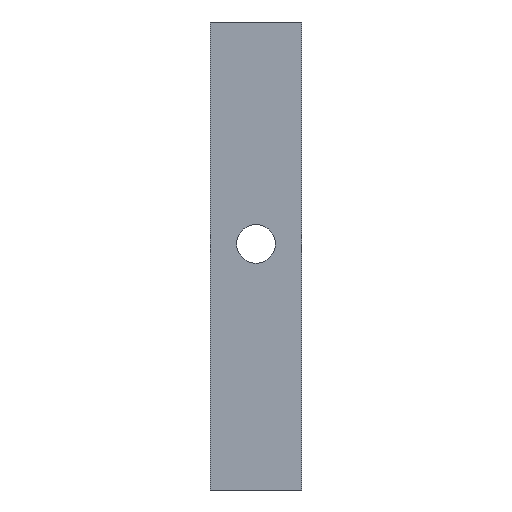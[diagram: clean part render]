
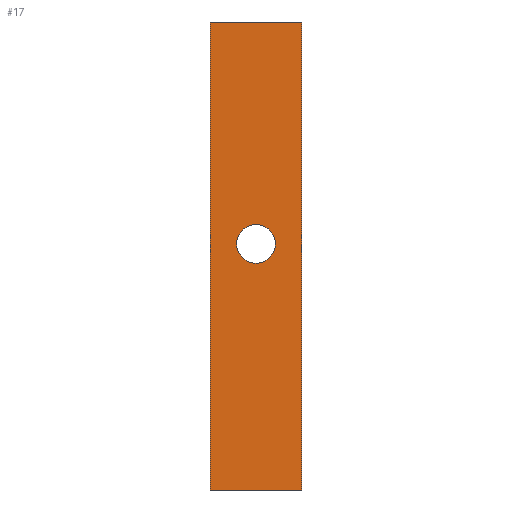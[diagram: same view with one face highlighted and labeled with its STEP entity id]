
A CAD part, left-side view. The second image highlights one B-rep face of the part: STEP entity #17.
In plain terms, the highlighted planar face has unit normal (-1, 0, 0).
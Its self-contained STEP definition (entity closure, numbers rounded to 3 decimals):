
#17 = ADVANCED_FACE('',(#18,#137),#32,.F.);
#18 = FACE_BOUND('',#19,.F.);
#19 = EDGE_LOOP('',(#20,#55,#83,#111));
#20 = ORIENTED_EDGE('',*,*,#21,.F.);
#21 = EDGE_CURVE('',#22,#24,#26,.T.);
#22 = VERTEX_POINT('',#23);
#23 = CARTESIAN_POINT('',(0.,-7.52,0.));
#24 = VERTEX_POINT('',#25);
#25 = CARTESIAN_POINT('',(0.,-7.52,77.1));
#26 = SURFACE_CURVE('',#27,(#31,#43),.PCURVE_S1.);
#27 = LINE('',#28,#29);
#28 = CARTESIAN_POINT('',(0.,-7.52,0.));
#29 = VECTOR('',#30,1.);
#30 = DIRECTION('',(0.,0.,1.));
#31 = PCURVE('',#32,#37);
#32 = PLANE('',#33);
#33 = AXIS2_PLACEMENT_3D('',#34,#35,#36);
#34 = CARTESIAN_POINT('',(0.,-7.52,0.));
#35 = DIRECTION('',(1.,0.,0.));
#36 = DIRECTION('',(0.,0.,1.));
#37 = DEFINITIONAL_REPRESENTATION('',(#38),#42);
#38 = LINE('',#39,#40);
#39 = CARTESIAN_POINT('',(0.,0.));
#40 = VECTOR('',#41,1.);
#41 = DIRECTION('',(1.,0.));
#42 = ( GEOMETRIC_REPRESENTATION_CONTEXT(2) 
PARAMETRIC_REPRESENTATION_CONTEXT() REPRESENTATION_CONTEXT('2D SPACE',''
  ) );
#43 = PCURVE('',#44,#49);
#44 = PLANE('',#45);
#45 = AXIS2_PLACEMENT_3D('',#46,#47,#48);
#46 = CARTESIAN_POINT('',(0.,-7.52,0.));
#47 = DIRECTION('',(0.,1.,0.));
#48 = DIRECTION('',(0.,0.,1.));
#49 = DEFINITIONAL_REPRESENTATION('',(#50),#54);
#50 = LINE('',#51,#52);
#51 = CARTESIAN_POINT('',(0.,0.));
#52 = VECTOR('',#53,1.);
#53 = DIRECTION('',(1.,0.));
#54 = ( GEOMETRIC_REPRESENTATION_CONTEXT(2) 
PARAMETRIC_REPRESENTATION_CONTEXT() REPRESENTATION_CONTEXT('2D SPACE',''
  ) );
#55 = ORIENTED_EDGE('',*,*,#56,.T.);
#56 = EDGE_CURVE('',#22,#57,#59,.T.);
#57 = VERTEX_POINT('',#58);
#58 = CARTESIAN_POINT('',(0.,7.52,0.));
#59 = SURFACE_CURVE('',#60,(#64,#71),.PCURVE_S1.);
#60 = LINE('',#61,#62);
#61 = CARTESIAN_POINT('',(0.,-7.52,0.));
#62 = VECTOR('',#63,1.);
#63 = DIRECTION('',(0.,1.,0.));
#64 = PCURVE('',#32,#65);
#65 = DEFINITIONAL_REPRESENTATION('',(#66),#70);
#66 = LINE('',#67,#68);
#67 = CARTESIAN_POINT('',(0.,0.));
#68 = VECTOR('',#69,1.);
#69 = DIRECTION('',(0.,-1.));
#70 = ( GEOMETRIC_REPRESENTATION_CONTEXT(2) 
PARAMETRIC_REPRESENTATION_CONTEXT() REPRESENTATION_CONTEXT('2D SPACE',''
  ) );
#71 = PCURVE('',#72,#77);
#72 = PLANE('',#73);
#73 = AXIS2_PLACEMENT_3D('',#74,#75,#76);
#74 = CARTESIAN_POINT('',(0.,-7.52,0.));
#75 = DIRECTION('',(0.,0.,1.));
#76 = DIRECTION('',(1.,0.,0.));
#77 = DEFINITIONAL_REPRESENTATION('',(#78),#82);
#78 = LINE('',#79,#80);
#79 = CARTESIAN_POINT('',(0.,0.));
#80 = VECTOR('',#81,1.);
#81 = DIRECTION('',(0.,1.));
#82 = ( GEOMETRIC_REPRESENTATION_CONTEXT(2) 
PARAMETRIC_REPRESENTATION_CONTEXT() REPRESENTATION_CONTEXT('2D SPACE',''
  ) );
#83 = ORIENTED_EDGE('',*,*,#84,.F.);
#84 = EDGE_CURVE('',#85,#57,#87,.T.);
#85 = VERTEX_POINT('',#86);
#86 = CARTESIAN_POINT('',(0.,7.52,77.1));
#87 = SURFACE_CURVE('',#88,(#92,#99),.PCURVE_S1.);
#88 = LINE('',#89,#90);
#89 = CARTESIAN_POINT('',(0.,7.52,77.1));
#90 = VECTOR('',#91,1.);
#91 = DIRECTION('',(0.,0.,-1.));
#92 = PCURVE('',#32,#93);
#93 = DEFINITIONAL_REPRESENTATION('',(#94),#98);
#94 = LINE('',#95,#96);
#95 = CARTESIAN_POINT('',(77.1,-15.04));
#96 = VECTOR('',#97,1.);
#97 = DIRECTION('',(-1.,0.));
#98 = ( GEOMETRIC_REPRESENTATION_CONTEXT(2) 
PARAMETRIC_REPRESENTATION_CONTEXT() REPRESENTATION_CONTEXT('2D SPACE',''
  ) );
#99 = PCURVE('',#100,#105);
#100 = PLANE('',#101);
#101 = AXIS2_PLACEMENT_3D('',#102,#103,#104);
#102 = CARTESIAN_POINT('',(0.,7.52,0.));
#103 = DIRECTION('',(0.,1.,0.));
#104 = DIRECTION('',(0.,0.,1.));
#105 = DEFINITIONAL_REPRESENTATION('',(#106),#110);
#106 = LINE('',#107,#108);
#107 = CARTESIAN_POINT('',(77.1,0.));
#108 = VECTOR('',#109,1.);
#109 = DIRECTION('',(-1.,0.));
#110 = ( GEOMETRIC_REPRESENTATION_CONTEXT(2) 
PARAMETRIC_REPRESENTATION_CONTEXT() REPRESENTATION_CONTEXT('2D SPACE',''
  ) );
#111 = ORIENTED_EDGE('',*,*,#112,.F.);
#112 = EDGE_CURVE('',#24,#85,#113,.T.);
#113 = SURFACE_CURVE('',#114,(#118,#125),.PCURVE_S1.);
#114 = LINE('',#115,#116);
#115 = CARTESIAN_POINT('',(0.,-7.52,77.1));
#116 = VECTOR('',#117,1.);
#117 = DIRECTION('',(0.,1.,0.));
#118 = PCURVE('',#32,#119);
#119 = DEFINITIONAL_REPRESENTATION('',(#120),#124);
#120 = LINE('',#121,#122);
#121 = CARTESIAN_POINT('',(77.1,0.));
#122 = VECTOR('',#123,1.);
#123 = DIRECTION('',(0.,-1.));
#124 = ( GEOMETRIC_REPRESENTATION_CONTEXT(2) 
PARAMETRIC_REPRESENTATION_CONTEXT() REPRESENTATION_CONTEXT('2D SPACE',''
  ) );
#125 = PCURVE('',#126,#131);
#126 = PLANE('',#127);
#127 = AXIS2_PLACEMENT_3D('',#128,#129,#130);
#128 = CARTESIAN_POINT('',(0.,-7.52,77.1));
#129 = DIRECTION('',(0.,0.,1.));
#130 = DIRECTION('',(1.,0.,0.));
#131 = DEFINITIONAL_REPRESENTATION('',(#132),#136);
#132 = LINE('',#133,#134);
#133 = CARTESIAN_POINT('',(0.,0.));
#134 = VECTOR('',#135,1.);
#135 = DIRECTION('',(0.,1.));
#136 = ( GEOMETRIC_REPRESENTATION_CONTEXT(2) 
PARAMETRIC_REPRESENTATION_CONTEXT() REPRESENTATION_CONTEXT('2D SPACE',''
  ) );
#137 = FACE_BOUND('',#138,.F.);
#138 = EDGE_LOOP('',(#139));
#139 = ORIENTED_EDGE('',*,*,#140,.F.);
#140 = EDGE_CURVE('',#141,#141,#143,.T.);
#141 = VERTEX_POINT('',#142);
#142 = CARTESIAN_POINT('',(-0.,3.2,40.55));
#143 = SURFACE_CURVE('',#144,(#149,#156),.PCURVE_S1.);
#144 = CIRCLE('',#145,3.2);
#145 = AXIS2_PLACEMENT_3D('',#146,#147,#148);
#146 = CARTESIAN_POINT('',(0.,0.,40.55));
#147 = DIRECTION('',(1.,0.,0.));
#148 = DIRECTION('',(0.,1.,0.));
#149 = PCURVE('',#32,#150);
#150 = DEFINITIONAL_REPRESENTATION('',(#151),#155);
#151 = CIRCLE('',#152,3.2);
#152 = AXIS2_PLACEMENT_2D('',#153,#154);
#153 = CARTESIAN_POINT('',(40.55,-7.52));
#154 = DIRECTION('',(0.,-1.));
#155 = ( GEOMETRIC_REPRESENTATION_CONTEXT(2) 
PARAMETRIC_REPRESENTATION_CONTEXT() REPRESENTATION_CONTEXT('2D SPACE',''
  ) );
#156 = PCURVE('',#157,#162);
#157 = CYLINDRICAL_SURFACE('',#158,3.2);
#158 = AXIS2_PLACEMENT_3D('',#159,#160,#161);
#159 = CARTESIAN_POINT('',(0.,0.,40.55));
#160 = DIRECTION('',(1.,0.,0.));
#161 = DIRECTION('',(0.,1.,0.));
#162 = DEFINITIONAL_REPRESENTATION('',(#163),#167);
#163 = LINE('',#164,#165);
#164 = CARTESIAN_POINT('',(0.,0.));
#165 = VECTOR('',#166,1.);
#166 = DIRECTION('',(1.,0.));
#167 = ( GEOMETRIC_REPRESENTATION_CONTEXT(2) 
PARAMETRIC_REPRESENTATION_CONTEXT() REPRESENTATION_CONTEXT('2D SPACE',''
  ) );
